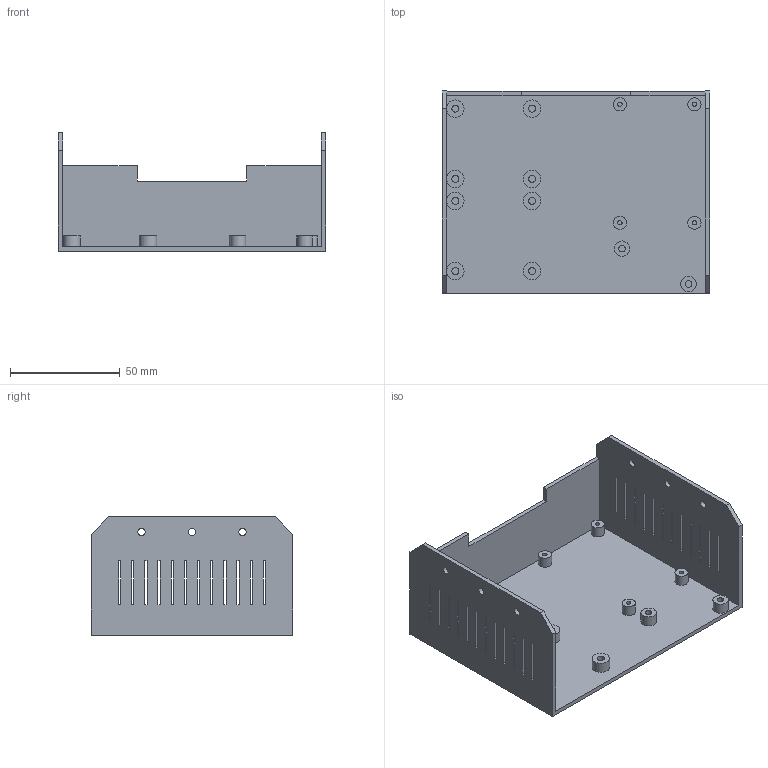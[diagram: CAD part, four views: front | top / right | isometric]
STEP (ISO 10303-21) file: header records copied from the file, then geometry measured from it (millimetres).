
FILE_DESCRIPTION(/* description */ (''),/* implementation_level */ '2;1');
FILE_NAME(/* name */ 'D:\3D печать\Мои проекты\Archy MK 2\STEP\Бокс под драйвера.stp',/* time_stamp */ '2019-03-20T22:04:00+06:00',/* author */ ('Пользователь'),/* organization */ (''),/* preprocessor_version */ 'ST-DEVELOPER v16.5',/* originating_system */ 'Autodesk Inventor 2017',/* authorisation */ '');
FILE_SCHEMA (('AUTOMOTIVE_DESIGN { 1 0 10303 214 3 1 1 }'));
Length unit declared in the file: millimetre
Products named in the file (1): Бокс под \X2\04340440
043004390432043504400430\X0\
Bounding box: 122 x 92 x 54 mm (x, y, z)
Volume: 50803.1 mm3; surface area: 53776.5 mm2
Topology: 1 solids, 1 shells, 178 faces, 448 edges, 296 vertices
Faces by surface type: plane 144, cylinder 34
Full cylindrical faces by diameter (mm): 2 x4, 3 x2, 3.2 x8, 3.3 x6, 6 x4, 7 x2, 8 x8
Entity records: 5278 total; most frequent: CARTESIAN_POINT 893, ORIENTED_EDGE 844, DIRECTION 844, EDGE_CURVE 418, LINE 350, VECTOR 350, VERTEX_POINT 296, EDGE_LOOP 292
